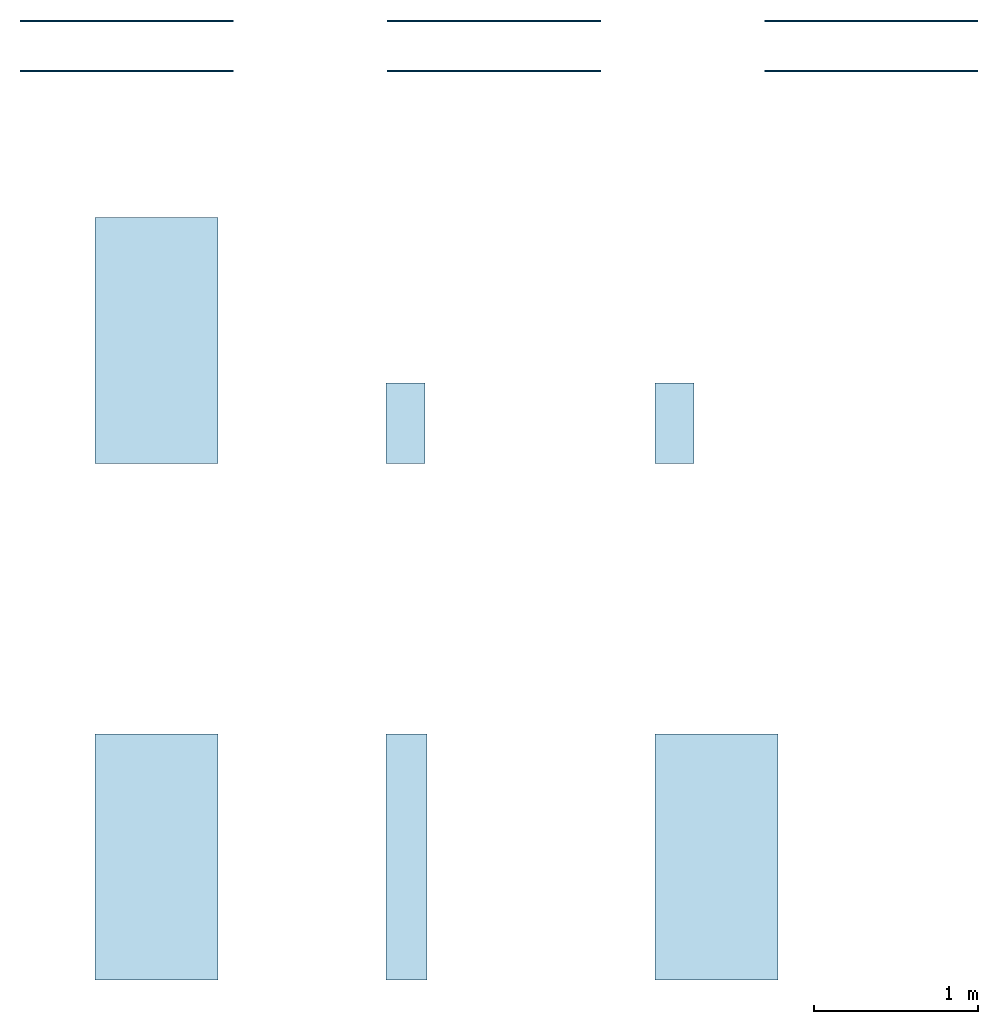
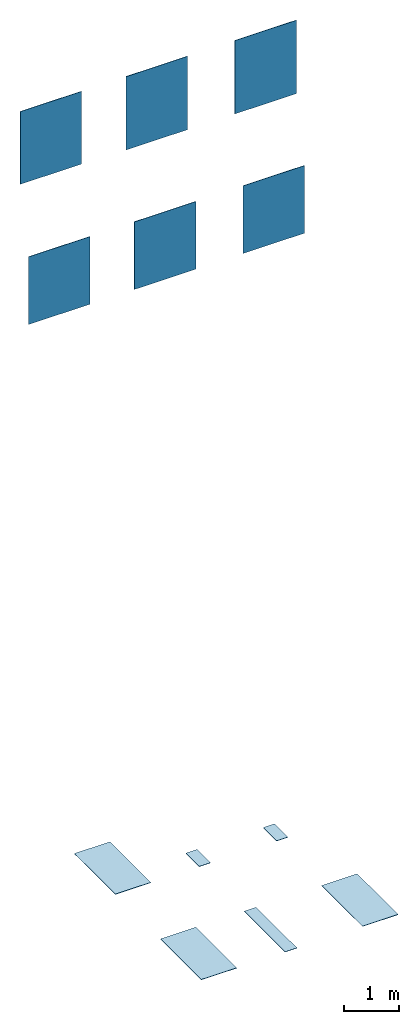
# One storey: 6 slabs, 6 walls.
"""IFC2X3 building model written with IfcOpenShell, lengths in millimetres."""

from ifc_helpers import new_model, entity, si_unit, converted_unit, derived_unit, direction, frame, frame_2d, origin, origin_2d_with_axis, place, context, subcontext, project, spatial, rectangle, extrude, material, layer, layer_set, layer_usage, type_object, element, save


model = new_model("IFC2X3")

# Units and contexts
model_context = context("Model", 3, precision=0.01, world=origin(), true_north=direction((6.12303176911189e-17, 1.0)))
body_context = subcontext(model_context, "Body", "Model", "MODEL_VIEW")
ifc_project = project(units=[si_unit("LENGTHUNIT", "METRE", prefix="MILLI"), si_unit("AREAUNIT", "SQUARE_METRE"), si_unit("VOLUMEUNIT", "CUBIC_METRE"), converted_unit("PLANEANGLEUNIT", "DEGREE", entity("IfcRatioMeasure", 0.0174532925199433), si_unit("PLANEANGLEUNIT", "RADIAN"), dimensions=[0, 0, 0, 0, 0, 0, 0]), si_unit("MASSUNIT", "GRAM", prefix="KILO"), derived_unit("MASSDENSITYUNIT", [(si_unit("MASSUNIT", "GRAM", prefix="KILO"), 1), (si_unit("LENGTHUNIT", "METRE"), -3)]), derived_unit("MOMENTOFINERTIAUNIT", [(si_unit("LENGTHUNIT", "METRE"), 4)]), si_unit("TIMEUNIT", "SECOND"), si_unit("FREQUENCYUNIT", "HERTZ"), si_unit("THERMODYNAMICTEMPERATUREUNIT", "DEGREE_CELSIUS"), derived_unit("THERMALTRANSMITTANCEUNIT", [(si_unit("MASSUNIT", "GRAM", prefix="KILO"), 1), (si_unit("THERMODYNAMICTEMPERATUREUNIT", "KELVIN"), -1), (si_unit("TIMEUNIT", "SECOND"), -3)]), derived_unit("VOLUMETRICFLOWRATEUNIT", [(si_unit("LENGTHUNIT", "METRE"), 3), (si_unit("TIMEUNIT", "SECOND"), -1)]), si_unit("ELECTRICCURRENTUNIT", "AMPERE"), si_unit("ELECTRICVOLTAGEUNIT", "VOLT"), si_unit("POWERUNIT", "WATT"), si_unit("FORCEUNIT", "NEWTON", prefix="KILO"), si_unit("ILLUMINANCEUNIT", "LUX"), si_unit("LUMINOUSFLUXUNIT", "LUMEN"), si_unit("LUMINOUSINTENSITYUNIT", "CANDELA"), derived_unit("USERDEFINED", [(si_unit("MASSUNIT", "GRAM", prefix="KILO"), -1), (si_unit("LENGTHUNIT", "METRE"), -2), (si_unit("TIMEUNIT", "SECOND"), 3), (si_unit("LUMINOUSFLUXUNIT", "LUMEN"), 1)]), derived_unit("LINEARVELOCITYUNIT", [(si_unit("LENGTHUNIT", "METRE"), 1), (si_unit("TIMEUNIT", "SECOND"), -1)]), si_unit("PRESSUREUNIT", "PASCAL"), derived_unit("USERDEFINED", [(si_unit("LENGTHUNIT", "METRE"), -2), (si_unit("MASSUNIT", "GRAM", prefix="KILO"), 1), (si_unit("TIMEUNIT", "SECOND"), -2)]), derived_unit("LINEARFORCEUNIT", [(si_unit("MASSUNIT", "GRAM", prefix="KILO"), 1), (si_unit("LENGTHUNIT", "METRE"), 1), (si_unit("TIMEUNIT", "SECOND"), -2), (si_unit("LENGTHUNIT", "METRE"), -1)]), derived_unit("PLANARFORCEUNIT", [(si_unit("MASSUNIT", "GRAM", prefix="KILO"), 1), (si_unit("LENGTHUNIT", "METRE"), 1), (si_unit("TIMEUNIT", "SECOND"), -2), (si_unit("LENGTHUNIT", "METRE"), -2)])], contexts=[model_context])

# Site, building, storey
site_placement = place(None, origin())
site = spatial("IfcSite", under=ifc_project, at=site_placement, Name="Default", CompositionType="ELEMENT")
building_placement = place(site_placement, origin())
building = spatial("IfcBuilding", under=site, at=building_placement, CompositionType="ELEMENT")
storey_placement = place(building_placement, origin())
storey = spatial("IfcBuildingStorey", under=building, at=storey_placement, Name="Level 0", CompositionType="ELEMENT", Elevation=0.0)

# Slabs
ifc_material_1 = material(Name="Canal Grande-Rubino-75x150 OU37")
ifc_layer_1 = layer(ifc_material_1, 9.0)
ifc_material_2 = material(Name="<Unnamed>")
ifc_layer_2 = layer(ifc_material_2, 1.0)
ifc_layer_set_1 = layer_set([ifc_layer_1, ifc_layer_2], Name="Floor:Floor_Tiles_Refin-Canal Grande-Rubino-75x150_OU37")
ifc_layer_usage_1 = layer_usage(ifc_layer_set_1, "AXIS3", "POSITIVE", 0.0)
slab_type_1 = type_object("IfcSlabType", Name="Floor:Floor_Tiles_Refin-Canal Grande-Rubino-75x150_OU37", PredefinedType="FLOOR", material=ifc_layer_set_1)
slab_1_placement = place(storey_placement, origin())
element("IfcSlab", 1, at=slab_1_placement, inside=storey, type_object=slab_type_1, material=ifc_layer_usage_1, Name="Floor:Floor_Tiles_Refin-Canal Grande-Rubino-75x150_OU37", ObjectType="Floor:Floor_Tiles_Refin-Canal Grande-Rubino-75x150_OU37", PredefinedType="FLOOR", context=body_context, shape_type="SweptSolid", body=[
    extrude(rectangle(XDim=1500.0, YDim=750.000000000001, at=frame_2d((5.11590769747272e-13, -1.08002495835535e-12), x_axis=(1.0, 0.0))), frame((6749.37520617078, 6189.4623742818, 0.0), z_axis=(0.0, 0.0, -1.0), x_axis=(0.0, 1.0, 0.0)), (0.0, 0.0, 1.0), 10.0),
])
ifc_material_3 = material(Name="Canal Grande-Rubino-Onda Lucido-23.8x49.2 OV33")
ifc_layer_3 = layer(ifc_material_3, 9.0)
ifc_layer_4 = layer(ifc_material_2, 1.0)
ifc_layer_set_2 = layer_set([ifc_layer_3, ifc_layer_4], Name="Floor:Floor_Tiles_Refin-Canal Grande-Rubino-23.8x49.2_OV33")
ifc_layer_usage_2 = layer_usage(ifc_layer_set_2, "AXIS3", "POSITIVE", 0.0)
slab_type_2 = type_object("IfcSlabType", Name="Floor:Floor_Tiles_Refin-Canal Grande-Rubino-23.8x49.2_OV33", PredefinedType="FLOOR", material=ifc_layer_set_2)
slab_2_placement = place(storey_placement, origin())
element("IfcSlab", 2, at=slab_2_placement, inside=storey, type_object=slab_type_2, material=ifc_layer_usage_2, Name="Floor:Floor_Tiles_Refin-Canal Grande-Rubino-23.8x49.2_OV33", ObjectType="Floor:Floor_Tiles_Refin-Canal Grande-Rubino-23.8x49.2_OV33", PredefinedType="FLOOR", context=body_context, shape_type="SweptSolid", body=[
    extrude(rectangle(XDim=492.0, YDim=238.0, at=frame_2d((5.54223333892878e-13, 0.0), x_axis=(1.0, 0.0))), frame((8266.39240545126, 5684.41920639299, 0.0), z_axis=(0.0, 0.0, -1.0), x_axis=(0.0, 1.0, 0.0)), (0.0, 0.0, 1.0), 10.0),
])
ifc_material_4 = material(Name="Canal Grande-Rubino-23.8x49.2 OU05")
ifc_layer_5 = layer(ifc_material_4, 9.0)
ifc_layer_6 = layer(ifc_material_2, 1.0)
ifc_layer_set_3 = layer_set([ifc_layer_5, ifc_layer_6], Name="Floor:Floor_Tiles_Refin-Canal Grande-Rubino-23.8x49.2_OU05")
ifc_layer_usage_3 = layer_usage(ifc_layer_set_3, "AXIS3", "POSITIVE", 0.0)
slab_type_3 = type_object("IfcSlabType", Name="Floor:Floor_Tiles_Refin-Canal Grande-Rubino-23.8x49.2_OU05", PredefinedType="FLOOR", material=ifc_layer_set_3)
slab_3_placement = place(storey_placement, origin())
element("IfcSlab", 3, at=slab_3_placement, inside=storey, type_object=slab_type_3, material=ifc_layer_usage_3, Name="Floor:Floor_Tiles_Refin-Canal Grande-Rubino-23.8x49.2_OU05", ObjectType="Floor:Floor_Tiles_Refin-Canal Grande-Rubino-23.8x49.2_OU05", PredefinedType="FLOOR", context=body_context, shape_type="SweptSolid", body=[
    extrude(rectangle(XDim=492.0, YDim=238.0, at=frame_2d((-5.54223333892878e-13, -1.08713038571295e-12), x_axis=(1.0, 0.0))), frame((9906.39240545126, 5684.41920639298, 0.0), z_axis=(0.0, 0.0, -1.0), x_axis=(0.0, 1.0, 0.0)), (0.0, 0.0, 1.0), 10.0),
])
ifc_material_5 = material(Name="Canal Grande-Rubino-75x150 OR39")
ifc_layer_7 = layer(ifc_material_5, 9.0)
ifc_layer_8 = layer(ifc_material_2, 1.0)
ifc_layer_set_4 = layer_set([ifc_layer_7, ifc_layer_8], Name="Floor:Floor_Tiles_Refin-Canal Grande-Rubino-75x150_OR39")
ifc_layer_usage_4 = layer_usage(ifc_layer_set_4, "AXIS3", "POSITIVE", 0.0)
slab_type_4 = type_object("IfcSlabType", Name="Floor:Floor_Tiles_Refin-Canal Grande-Rubino-75x150_OR39", PredefinedType="FLOOR", material=ifc_layer_set_4)
slab_4_placement = place(storey_placement, origin())
element("IfcSlab", 4, at=slab_4_placement, inside=storey, type_object=slab_type_4, material=ifc_layer_usage_4, Name="Floor:Floor_Tiles_Refin-Canal Grande-Rubino-75x150_OR39", ObjectType="Floor:Floor_Tiles_Refin-Canal Grande-Rubino-75x150_OR39", PredefinedType="FLOOR", context=body_context, shape_type="SweptSolid", body=[
    extrude(rectangle(XDim=1500.0, YDim=750.000000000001, at=origin_2d_with_axis()), frame((6749.37520617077, 3039.4623742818, 0.0), z_axis=(0.0, 0.0, -1.0), x_axis=(0.0, 1.0, 0.0)), (0.0, 0.0, 1.0), 10.0),
])
ifc_material_6 = material(Name="Canal Grande-Rubino-Soft-75x150 OS95")
ifc_layer_9 = layer(ifc_material_6, 9.0)
ifc_layer_10 = layer(ifc_material_2, 1.0)
ifc_layer_set_5 = layer_set([ifc_layer_9, ifc_layer_10], Name="Floor:Floor_Tiles_Refin-Canal Grande-Rubino-75x150_OS95")
ifc_layer_usage_5 = layer_usage(ifc_layer_set_5, "AXIS3", "POSITIVE", 0.0)
slab_type_5 = type_object("IfcSlabType", Name="Floor:Floor_Tiles_Refin-Canal Grande-Rubino-75x150_OS95", PredefinedType="FLOOR", material=ifc_layer_set_5)
slab_5_placement = place(storey_placement, origin())
element("IfcSlab", 5, at=slab_5_placement, inside=storey, type_object=slab_type_5, material=ifc_layer_usage_5, Name="Floor:Floor_Tiles_Refin-Canal Grande-Rubino-75x150_OS95", ObjectType="Floor:Floor_Tiles_Refin-Canal Grande-Rubino-75x150_OS95", PredefinedType="FLOOR", context=body_context, shape_type="SweptSolid", body=[
    extrude(rectangle(XDim=1500.0, YDim=750.000000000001, at=frame_2d((0.0, 1.08002495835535e-12), x_axis=(1.0, 0.0))), frame((10162.3924054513, 3039.46237428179, 0.0), z_axis=(0.0, 0.0, -1.0), x_axis=(0.0, 1.0, 0.0)), (0.0, 0.0, 1.0), 10.0),
])
ifc_material_7 = material(Name="Canal Grande-Rubino-Soft-25x150 OS98")
ifc_layer_11 = layer(ifc_material_7, 9.0)
ifc_layer_12 = layer(ifc_material_2, 1.0)
ifc_layer_set_6 = layer_set([ifc_layer_11, ifc_layer_12], Name="Floor:Floor_Tiles_Refin-Canal Grande-Rubino-25x150_OS98")
ifc_layer_usage_6 = layer_usage(ifc_layer_set_6, "AXIS3", "POSITIVE", 0.0)
slab_type_6 = type_object("IfcSlabType", Name="Floor:Floor_Tiles_Refin-Canal Grande-Rubino-25x150_OS98", PredefinedType="FLOOR", material=ifc_layer_set_6)
slab_6_placement = place(storey_placement, origin())
element("IfcSlab", 6, at=slab_6_placement, inside=storey, type_object=slab_type_6, material=ifc_layer_usage_6, Name="Floor:Floor_Tiles_Refin-Canal Grande-Rubino-25x150_OS98", ObjectType="Floor:Floor_Tiles_Refin-Canal Grande-Rubino-25x150_OS98", PredefinedType="FLOOR", context=body_context, shape_type="SweptSolid", body=[
    extrude(rectangle(XDim=1500.0, YDim=249.999999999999, at=origin_2d_with_axis()), frame((8272.39240545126, 3039.4623742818, 0.0), z_axis=(0.0, 0.0, -1.0), x_axis=(0.0, 1.0, 0.0)), (0.0, 0.0, 1.0), 10.0),
])

# Walls
ifc_layer_13 = layer(ifc_material_2, 1.0)
ifc_layer_14 = layer(ifc_material_3, 9.0)
ifc_layer_set_7 = layer_set([ifc_layer_13, ifc_layer_14], Name="Basic Wall:Wall_Tiles_Refin-Canal Grande-Rubino-23.8x49.2_OV33")
ifc_layer_usage_7 = layer_usage(ifc_layer_set_7, "AXIS2", "NEGATIVE", 5.0)
wall_type_1 = type_object("IfcWallType", Name="Basic Wall:Wall_Tiles_Refin-Canal Grande-Rubino-23.8x49.2_OV33", PredefinedType="STANDARD", material=ifc_layer_set_7)
wall_1_placement = place(storey_placement, frame((8157.37520617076, 8137.38386313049, 14387.6770443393)))
element("IfcWallStandardCase", 7, at=wall_1_placement, inside=storey, type_object=wall_type_1, material=ifc_layer_usage_7, Name="Basic Wall:Wall_Tiles_Refin-Canal Grande-Rubino-23.8x49.2_OV33", ObjectType="Basic Wall:Wall_Tiles_Refin-Canal Grande-Rubino-23.8x49.2_OV33", context=body_context, shape_type="SweptSolid", body=[
    extrude(rectangle(XDim=1300.0, YDim=9.99999999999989, at=frame_2d((650.0, 7.63833440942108e-14), x_axis=(-1.0, 0.0))), origin(), (0.0, 0.0, 1.0), 1641.74173522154),
])
ifc_layer_15 = layer(ifc_material_2, 1.0)
ifc_layer_16 = layer(ifc_material_4, 9.0)
ifc_layer_set_8 = layer_set([ifc_layer_15, ifc_layer_16], Name="Basic Wall:Wall_Tiles_Refin-Canal Grande-Rubino-23.8x49.2_OU05")
ifc_layer_usage_8 = layer_usage(ifc_layer_set_8, "AXIS2", "NEGATIVE", 5.0)
wall_type_2 = type_object("IfcWallType", Name="Basic Wall:Wall_Tiles_Refin-Canal Grande-Rubino-23.8x49.2_OU05", PredefinedType="STANDARD", material=ifc_layer_set_8)
wall_2_placement = place(storey_placement, frame((10457.3752061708, 8137.38386313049, 14387.6770443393)))
element("IfcWallStandardCase", 8, at=wall_2_placement, inside=storey, type_object=wall_type_2, material=ifc_layer_usage_8, Name="Basic Wall:Wall_Tiles_Refin-Canal Grande-Rubino-23.8x49.2_OU05", ObjectType="Basic Wall:Wall_Tiles_Refin-Canal Grande-Rubino-23.8x49.2_OU05", context=body_context, shape_type="SweptSolid", body=[
    extrude(rectangle(XDim=1300.0, YDim=9.99999999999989, at=frame_2d((650.0, 7.63833440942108e-14), x_axis=(-1.0, 0.0))), origin(), (0.0, 0.0, 1.0), 1641.74173522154),
])
ifc_layer_17 = layer(ifc_material_2, 1.0)
ifc_layer_18 = layer(ifc_material_1, 9.0)
ifc_layer_set_9 = layer_set([ifc_layer_17, ifc_layer_18], Name="Basic Wall:Wall_Tiles_Refin-Canal Grande-Rubino-75x150_OU37")
ifc_layer_usage_9 = layer_usage(ifc_layer_set_9, "AXIS2", "NEGATIVE", 5.0)
wall_type_3 = type_object("IfcWallType", Name="Basic Wall:Wall_Tiles_Refin-Canal Grande-Rubino-75x150_OU37", PredefinedType="STANDARD", material=ifc_layer_set_9)
wall_3_placement = place(storey_placement, frame((5917.37520617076, 8137.38386313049, 14403.726734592)))
element("IfcWallStandardCase", 9, at=wall_3_placement, inside=storey, type_object=wall_type_3, material=ifc_layer_usage_9, Name="Basic Wall:Wall_Tiles_Refin-Canal Grande-Rubino-75x150_OU37", ObjectType="Basic Wall:Wall_Tiles_Refin-Canal Grande-Rubino-75x150_OU37", context=body_context, shape_type="SweptSolid", body=[
    extrude(rectangle(XDim=1300.0, YDim=9.99999999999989, at=frame_2d((650.0, 7.63833440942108e-14), x_axis=(-1.0, 0.0))), origin(), (0.0, 0.0, 1.0), 1625.69204496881),
])
ifc_layer_19 = layer(ifc_material_2, 1.0)
ifc_layer_20 = layer(ifc_material_5, 9.0)
ifc_layer_set_10 = layer_set([ifc_layer_19, ifc_layer_20], Name="Basic Wall:Wall_Tiles_Refin-Canal Grande-Rubino-75x150_OR39")
ifc_layer_usage_10 = layer_usage(ifc_layer_set_10, "AXIS2", "NEGATIVE", 5.0)
wall_type_4 = type_object("IfcWallType", Name="Basic Wall:Wall_Tiles_Refin-Canal Grande-Rubino-75x150_OR39", PredefinedType="STANDARD", material=ifc_layer_set_10)
wall_4_placement = place(storey_placement, frame((5917.37520617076, 7832.38386313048, 11452.5436262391)))
element("IfcWallStandardCase", 10, at=wall_4_placement, inside=storey, type_object=wall_type_4, material=ifc_layer_usage_10, Name="Basic Wall:Wall_Tiles_Refin-Canal Grande-Rubino-75x150_OR39", ObjectType="Basic Wall:Wall_Tiles_Refin-Canal Grande-Rubino-75x150_OR39", context=body_context, shape_type="SweptSolid", body=[
    extrude(rectangle(XDim=1300.0, YDim=9.99999999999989, at=frame_2d((650.0, 0.0), x_axis=(-1.0, 0.0))), origin(), (0.0, 0.0, 1.0), 1513.19855655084),
])
ifc_layer_21 = layer(ifc_material_2, 1.0)
ifc_layer_22 = layer(ifc_material_6, 9.0)
ifc_layer_set_11 = layer_set([ifc_layer_21, ifc_layer_22], Name="Basic Wall:Wall_Tiles_Refin-Canal Grande-Rubino-75x150_OS95")
ifc_layer_usage_11 = layer_usage(ifc_layer_set_11, "AXIS2", "NEGATIVE", 5.0)
wall_type_5 = type_object("IfcWallType", Name="Basic Wall:Wall_Tiles_Refin-Canal Grande-Rubino-75x150_OS95", PredefinedType="STANDARD", material=ifc_layer_set_11)
wall_5_placement = place(storey_placement, frame((10457.3752061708, 7832.38386313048, 11452.5436262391)))
element("IfcWallStandardCase", 11, at=wall_5_placement, inside=storey, type_object=wall_type_5, material=ifc_layer_usage_11, Name="Basic Wall:Wall_Tiles_Refin-Canal Grande-Rubino-75x150_OS95", ObjectType="Basic Wall:Wall_Tiles_Refin-Canal Grande-Rubino-75x150_OS95", context=body_context, shape_type="SweptSolid", body=[
    extrude(rectangle(XDim=1300.0, YDim=9.99999999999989, at=frame_2d((650.0, 0.0), x_axis=(-1.0, 0.0))), origin(), (0.0, 0.0, 1.0), 1513.19855655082),
])
ifc_layer_23 = layer(ifc_material_2, 1.0)
ifc_layer_24 = layer(ifc_material_7, 9.0)
ifc_layer_set_12 = layer_set([ifc_layer_23, ifc_layer_24], Name="Basic Wall:Wall_Tiles_Refin-Canal Grande-Rubino-25x150_OS98")
ifc_layer_usage_12 = layer_usage(ifc_layer_set_12, "AXIS2", "NEGATIVE", 5.0)
wall_type_6 = type_object("IfcWallType", Name="Basic Wall:Wall_Tiles_Refin-Canal Grande-Rubino-25x150_OS98", PredefinedType="STANDARD", material=ifc_layer_set_12)
wall_6_placement = place(storey_placement, frame((8157.37520617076, 7832.38386313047, 11452.5436262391)))
element("IfcWallStandardCase", 12, at=wall_6_placement, inside=storey, type_object=wall_type_6, material=ifc_layer_usage_12, Name="Basic Wall:Wall_Tiles_Refin-Canal Grande-Rubino-25x150_OS98", ObjectType="Basic Wall:Wall_Tiles_Refin-Canal Grande-Rubino-25x150_OS98", context=body_context, shape_type="SweptSolid", body=[
    extrude(rectangle(XDim=1300.0, YDim=9.99999999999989, at=frame_2d((650.0, 0.0), x_axis=(-1.0, 0.0))), origin(), (0.0, 0.0, 1.0), 1513.19855655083),
])

save(model, "model.ifc")
